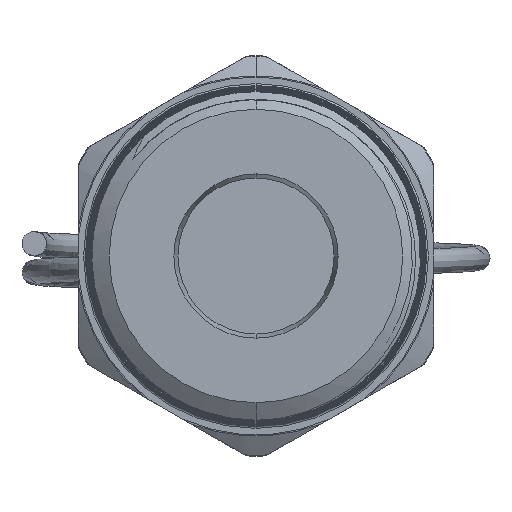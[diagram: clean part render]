
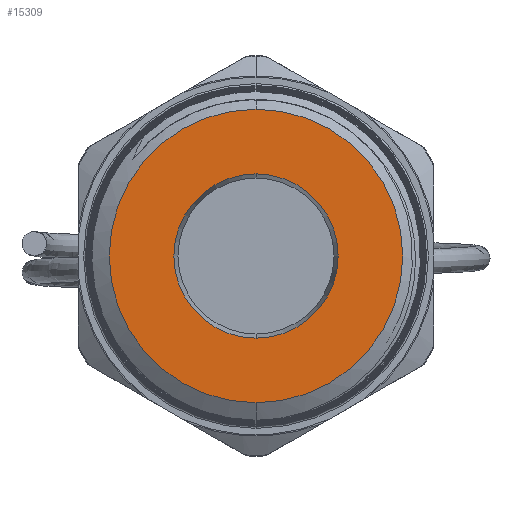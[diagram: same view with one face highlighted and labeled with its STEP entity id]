
A CAD part, front view. The second image highlights one B-rep face of the part: STEP entity #15309.
In plain terms, the highlighted planar face has unit normal (0, -1, 0).
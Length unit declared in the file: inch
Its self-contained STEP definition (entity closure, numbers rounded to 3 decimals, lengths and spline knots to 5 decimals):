
#438 = CARTESIAN_POINT ( 'NONE',  ( 0., 0., -0.3575 ) ) ;
#556 = CIRCLE ( 'NONE', #10492, 0.2 ) ;
#889 = CARTESIAN_POINT ( 'NONE',  ( 0., 0., 0. ) ) ;
#941 = ORIENTED_EDGE ( 'NONE', *, *, #7384, .T. ) ;
#999 = AXIS2_PLACEMENT_3D ( 'NONE', #1667, #10189, #2896 ) ;
#1667 = CARTESIAN_POINT ( 'NONE',  ( 0., 0., 0. ) ) ;
#2124 = DIRECTION ( 'NONE',  ( 0., 0., 1. ) ) ;
#2227 = FACE_BOUND ( 'NONE', #14222, .T. ) ;
#2289 = VERTEX_POINT ( 'NONE', #3055 ) ;
#2531 = ORIENTED_EDGE ( 'NONE', *, *, #8633, .T. ) ;
#2604 = FACE_OUTER_BOUND ( 'NONE', #8187, .T. ) ;
#2778 = VERTEX_POINT ( 'NONE', #14465 ) ;
#2896 = DIRECTION ( 'NONE',  ( 0., 0., 1. ) ) ;
#2943 = AXIS2_PLACEMENT_3D ( 'NONE', #10805, #3513, #12030 ) ;
#3055 = CARTESIAN_POINT ( 'NONE',  ( 0., 0., 0.3575 ) ) ;
#3513 = DIRECTION ( 'NONE',  ( 0., 1., 0. ) ) ;
#5905 = CIRCLE ( 'NONE', #10871, 0.3575 ) ;
#5995 = DIRECTION ( 'NONE',  ( 0., 1., 0. ) ) ;
#6347 = CARTESIAN_POINT ( 'NONE',  ( 0., 0., 0. ) ) ;
#6706 = EDGE_CURVE ( 'NONE', #12372, #2289, #5905, .T. ) ;
#7384 = EDGE_CURVE ( 'NONE', #12780, #2778, #12172, .T. ) ;
#7572 = DIRECTION ( 'NONE',  ( 0., 0., 1. ) ) ;
#8187 = EDGE_LOOP ( 'NONE', ( #8500, #8680 ) ) ;
#8412 = CARTESIAN_POINT ( 'NONE',  ( 0., 0., -0.2 ) ) ;
#8500 = ORIENTED_EDGE ( 'NONE', *, *, #13779, .F. ) ;
#8633 = EDGE_CURVE ( 'NONE', #2778, #12780, #556, .T. ) ;
#8680 = ORIENTED_EDGE ( 'NONE', *, *, #6706, .F. ) ;
#9404 = DIRECTION ( 'NONE',  ( 0., 1., 0. ) ) ;
#9658 = CIRCLE ( 'NONE', #2943, 0.3575 ) ;
#10189 = DIRECTION ( 'NONE',  ( 0., 1., 0. ) ) ;
#10492 = AXIS2_PLACEMENT_3D ( 'NONE', #6347, #14815, #7572 ) ;
#10805 = CARTESIAN_POINT ( 'NONE',  ( 0., 0., 0. ) ) ;
#10871 = AXIS2_PLACEMENT_3D ( 'NONE', #889, #9404, #2124 ) ;
#12030 = DIRECTION ( 'NONE',  ( 0., 0., 1. ) ) ;
#12058 = CARTESIAN_POINT ( 'NONE',  ( 0., 0., -0.2 ) ) ;
#12128 = AXIS2_PLACEMENT_3D ( 'NONE', #12058, #5995, #14458 ) ;
#12172 = CIRCLE ( 'NONE', #999, 0.2 ) ;
#12372 = VERTEX_POINT ( 'NONE', #438 ) ;
#12780 = VERTEX_POINT ( 'NONE', #8412 ) ;
#13255 = PLANE ( 'NONE',  #12128 ) ;
#13779 = EDGE_CURVE ( 'NONE', #2289, #12372, #9658, .T. ) ;
#14222 = EDGE_LOOP ( 'NONE', ( #941, #2531 ) ) ;
#14458 = DIRECTION ( 'NONE',  ( 0., 0., 1. ) ) ;
#14465 = CARTESIAN_POINT ( 'NONE',  ( 0., 0., 0.2 ) ) ;
#14815 = DIRECTION ( 'NONE',  ( 0., 1., 0. ) ) ;
#15309 = ADVANCED_FACE ( 'NONE', ( #2604, #2227 ), #13255, .F. ) ;
